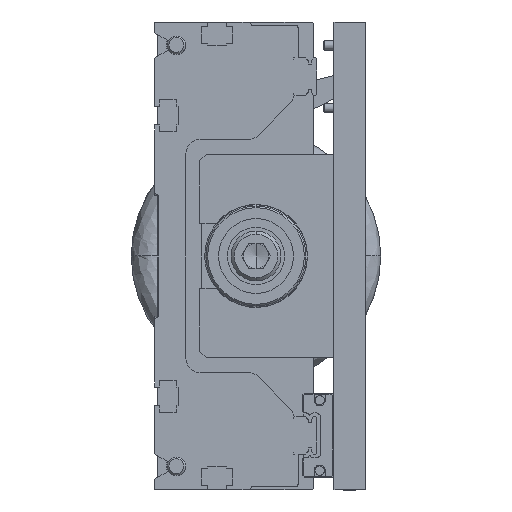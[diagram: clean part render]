
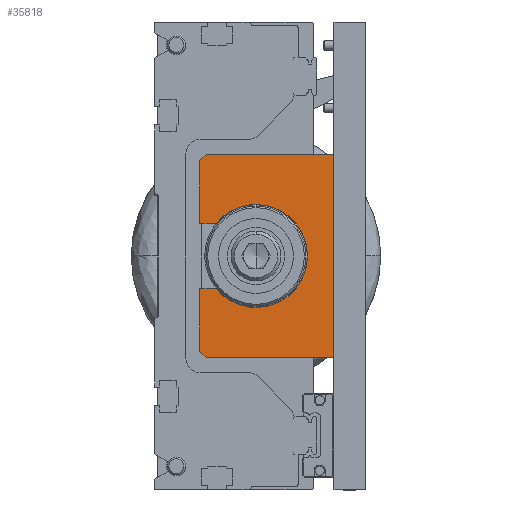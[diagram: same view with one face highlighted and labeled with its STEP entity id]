
A CAD part, front view. The second image highlights one B-rep face of the part: STEP entity #35818.
In plain terms, the highlighted planar face has unit normal (0, -1, 0).
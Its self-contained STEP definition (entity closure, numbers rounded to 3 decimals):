
#1156 = PLANE ( 'NONE',  #68536 ) ;
#1678 = VERTEX_POINT ( 'NONE', #66148 ) ;
#1709 = LINE ( 'NONE', #47198, #55818 ) ;
#2646 = VERTEX_POINT ( 'NONE', #48582 ) ;
#3294 = CARTESIAN_POINT ( 'NONE',  ( 32.5, -1., 0. ) ) ;
#4567 = DIRECTION ( 'NONE',  ( 0., 0., -1. ) ) ;
#5282 = CARTESIAN_POINT ( 'NONE',  ( 32.5, -1., -16.5 ) ) ;
#5354 = ORIENTED_EDGE ( 'NONE', *, *, #25681, .T. ) ;
#8423 = LINE ( 'NONE', #58477, #58410 ) ;
#10122 = CARTESIAN_POINT ( 'NONE',  ( 14.5, -1., 35.75 ) ) ;
#11646 = VERTEX_POINT ( 'NONE', #51335 ) ;
#11813 = CIRCLE ( 'NONE', #42231, 16.5 ) ;
#12226 = DIRECTION ( 'NONE',  ( 0., 0., 1. ) ) ;
#13355 = LINE ( 'NONE', #41813, #52517 ) ;
#14959 = EDGE_LOOP ( 'NONE', ( #62422, #48413, #5354, #49604, #58200, #56437, #42949, #34674, #32002, #68615, #24558, #48148 ) ) ;
#16306 = LINE ( 'NONE', #30739, #31354 ) ;
#16977 = DIRECTION ( 'NONE',  ( 0., -1., 0. ) ) ;
#18982 = EDGE_CURVE ( 'NONE', #1678, #52108, #46433, .T. ) ;
#19445 = VERTEX_POINT ( 'NONE', #25185 ) ;
#19580 = EDGE_CURVE ( 'NONE', #52108, #39520, #8423, .T. ) ;
#21316 = CARTESIAN_POINT ( 'NONE',  ( 19.772, -1., 10.5 ) ) ;
#22012 = DIRECTION ( 'NONE',  ( 0., 1., 0. ) ) ;
#24558 = ORIENTED_EDGE ( 'NONE', *, *, #50944, .T. ) ;
#24710 = LINE ( 'NONE', #25113, #50502 ) ;
#25113 = CARTESIAN_POINT ( 'NONE',  ( 16.5, -1., 32.5 ) ) ;
#25185 = CARTESIAN_POINT ( 'NONE',  ( 57.5, -1., -32.5 ) ) ;
#25314 = CARTESIAN_POINT ( 'NONE',  ( 14.5, -1., 10.5 ) ) ;
#25681 = EDGE_CURVE ( 'NONE', #19445, #11646, #33697, .T. ) ;
#25846 = LINE ( 'NONE', #40442, #59236 ) ;
#26439 = EDGE_CURVE ( 'NONE', #63439, #65975, #51920, .T. ) ;
#27073 = DIRECTION ( 'NONE',  ( 0., 0., -1. ) ) ;
#27669 = CARTESIAN_POINT ( 'NONE',  ( 12.35, -1., 35.75 ) ) ;
#28262 = EDGE_CURVE ( 'NONE', #43037, #40910, #1709, .T. ) ;
#28530 = CARTESIAN_POINT ( 'NONE',  ( 57.5, -1., -82.5 ) ) ;
#29459 = VERTEX_POINT ( 'NONE', #30947 ) ;
#29594 = DIRECTION ( 'NONE',  ( 0., 0., -1. ) ) ;
#30697 = DIRECTION ( 'NONE',  ( -0.707, 0., -0.707 ) ) ;
#30739 = CARTESIAN_POINT ( 'NONE',  ( 12.35, -1., -32.5 ) ) ;
#30947 = CARTESIAN_POINT ( 'NONE',  ( 16.5, -1., 32.5 ) ) ;
#31354 = VECTOR ( 'NONE', #41448, 1000. ) ;
#32002 = ORIENTED_EDGE ( 'NONE', *, *, #26439, .T. ) ;
#32398 = DIRECTION ( 'NONE',  ( 0.707, 0., -0.707 ) ) ;
#33697 = LINE ( 'NONE', #28530, #62013 ) ;
#34463 = EDGE_CURVE ( 'NONE', #29459, #37118, #24710, .T. ) ;
#34674 = ORIENTED_EDGE ( 'NONE', *, *, #37553, .T. ) ;
#35818 = ADVANCED_FACE ( 'NONE', ( #56269 ), #1156, .T. ) ;
#36259 = CARTESIAN_POINT ( 'NONE',  ( 32.5, -1., 16.5 ) ) ;
#36995 = CARTESIAN_POINT ( 'NONE',  ( 32.5, -1., 0. ) ) ;
#37077 = LINE ( 'NONE', #44757, #68724 ) ;
#37078 = CIRCLE ( 'NONE', #62467, 16.5 ) ;
#37118 = VERTEX_POINT ( 'NONE', #68232 ) ;
#37195 = CARTESIAN_POINT ( 'NONE',  ( 14.5, -1., -30.5 ) ) ;
#37553 = EDGE_CURVE ( 'NONE', #40910, #63439, #11813, .T. ) ;
#39520 = VERTEX_POINT ( 'NONE', #58332 ) ;
#40442 = CARTESIAN_POINT ( 'NONE',  ( 12.35, -1., -10.5 ) ) ;
#40815 = EDGE_CURVE ( 'NONE', #37118, #43037, #13355, .T. ) ;
#40910 = VERTEX_POINT ( 'NONE', #21316 ) ;
#41127 = DIRECTION ( 'NONE',  ( 1., 0., 0. ) ) ;
#41448 = DIRECTION ( 'NONE',  ( 1., 0., 0. ) ) ;
#41813 = CARTESIAN_POINT ( 'NONE',  ( 14.5, -1., 35.75 ) ) ;
#42231 = AXIS2_PLACEMENT_3D ( 'NONE', #36995, #47469, #53236 ) ;
#42949 = ORIENTED_EDGE ( 'NONE', *, *, #28262, .T. ) ;
#43037 = VERTEX_POINT ( 'NONE', #25314 ) ;
#44298 = DIRECTION ( 'NONE',  ( -1., 0., 0. ) ) ;
#44757 = CARTESIAN_POINT ( 'NONE',  ( 14.45, -1., 32.5 ) ) ;
#44919 = EDGE_CURVE ( 'NONE', #11646, #29459, #37077, .T. ) ;
#45691 = DIRECTION ( 'NONE',  ( 0., 1., 0. ) ) ;
#45826 = DIRECTION ( 'NONE',  ( -1., 0., 0. ) ) ;
#46433 = LINE ( 'NONE', #10122, #66407 ) ;
#47198 = CARTESIAN_POINT ( 'NONE',  ( 12.35, -1., 10.5 ) ) ;
#47469 = DIRECTION ( 'NONE',  ( 0., 1., 0. ) ) ;
#48148 = ORIENTED_EDGE ( 'NONE', *, *, #18982, .T. ) ;
#48413 = ORIENTED_EDGE ( 'NONE', *, *, #52010, .T. ) ;
#48582 = CARTESIAN_POINT ( 'NONE',  ( 19.772, -1., -10.5 ) ) ;
#49043 = DIRECTION ( 'NONE',  ( 0., 0., -1. ) ) ;
#49267 = CARTESIAN_POINT ( 'NONE',  ( 32.5, -1., 0. ) ) ;
#49604 = ORIENTED_EDGE ( 'NONE', *, *, #44919, .T. ) ;
#50502 = VECTOR ( 'NONE', #30697, 1000. ) ;
#50944 = EDGE_CURVE ( 'NONE', #2646, #1678, #25846, .T. ) ;
#51335 = CARTESIAN_POINT ( 'NONE',  ( 57.5, -1., 32.5 ) ) ;
#51920 = CIRCLE ( 'NONE', #64492, 16.5 ) ;
#52010 = EDGE_CURVE ( 'NONE', #39520, #19445, #16306, .T. ) ;
#52108 = VERTEX_POINT ( 'NONE', #37195 ) ;
#52517 = VECTOR ( 'NONE', #4567, 1000. ) ;
#53236 = DIRECTION ( 'NONE',  ( 0., 0., -1. ) ) ;
#54679 = DIRECTION ( 'NONE',  ( 0., 0., -1. ) ) ;
#55818 = VECTOR ( 'NONE', #41127, 1000. ) ;
#56269 = FACE_OUTER_BOUND ( 'NONE', #14959, .T. ) ;
#56437 = ORIENTED_EDGE ( 'NONE', *, *, #40815, .T. ) ;
#58200 = ORIENTED_EDGE ( 'NONE', *, *, #34463, .T. ) ;
#58332 = CARTESIAN_POINT ( 'NONE',  ( 16.5, -1., -32.5 ) ) ;
#58410 = VECTOR ( 'NONE', #32398, 1000. ) ;
#58477 = CARTESIAN_POINT ( 'NONE',  ( 14.5, -1., -30.5 ) ) ;
#59236 = VECTOR ( 'NONE', #45826, 1000. ) ;
#62013 = VECTOR ( 'NONE', #12226, 1000. ) ;
#62422 = ORIENTED_EDGE ( 'NONE', *, *, #19580, .T. ) ;
#62467 = AXIS2_PLACEMENT_3D ( 'NONE', #49267, #22012, #49043 ) ;
#63439 = VERTEX_POINT ( 'NONE', #36259 ) ;
#64492 = AXIS2_PLACEMENT_3D ( 'NONE', #3294, #45691, #29594 ) ;
#65975 = VERTEX_POINT ( 'NONE', #5282 ) ;
#66148 = CARTESIAN_POINT ( 'NONE',  ( 14.5, -1., -10.5 ) ) ;
#66169 = EDGE_CURVE ( 'NONE', #65975, #2646, #37078, .T. ) ;
#66407 = VECTOR ( 'NONE', #27073, 1000. ) ;
#68232 = CARTESIAN_POINT ( 'NONE',  ( 14.5, -1., 30.5 ) ) ;
#68536 = AXIS2_PLACEMENT_3D ( 'NONE', #27669, #16977, #54679 ) ;
#68615 = ORIENTED_EDGE ( 'NONE', *, *, #66169, .T. ) ;
#68724 = VECTOR ( 'NONE', #44298, 1000. ) ;
